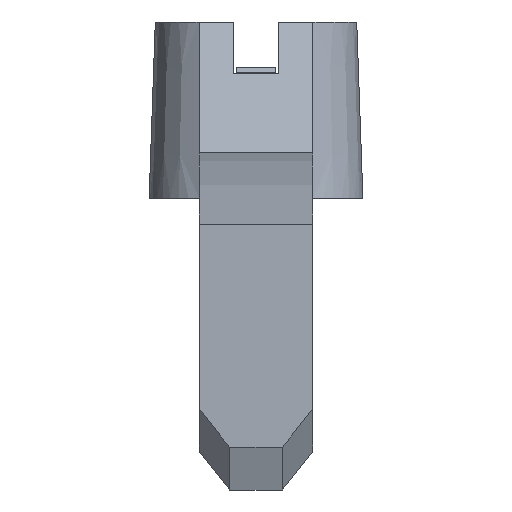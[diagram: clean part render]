
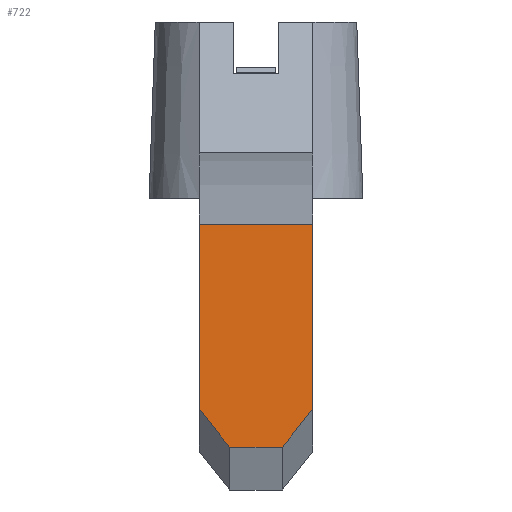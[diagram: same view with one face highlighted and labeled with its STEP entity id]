
A CAD part, front view. The second image highlights one B-rep face of the part: STEP entity #722.
In plain terms, the highlighted planar face has unit normal (0, -0.342, 0.94).
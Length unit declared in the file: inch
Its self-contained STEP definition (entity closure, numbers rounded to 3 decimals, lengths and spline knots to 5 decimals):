
#17 = EDGE_CURVE ( 'NONE', #277, #55, #848, .T. ) ;
#27 = CARTESIAN_POINT ( 'NONE',  ( 0.05, -3.0246, -0.02272 ) ) ;
#36 = VERTEX_POINT ( 'NONE', #826 ) ;
#50 = LINE ( 'NONE', #1306, #470 ) ;
#52 = CARTESIAN_POINT ( 'NONE',  ( -0.05, -3.0246, -0.02272 ) ) ;
#55 = VERTEX_POINT ( 'NONE', #619 ) ;
#69 = VERTEX_POINT ( 'NONE', #540 ) ;
#106 = ORIENTED_EDGE ( 'NONE', *, *, #718, .T. ) ;
#115 = VECTOR ( 'NONE', #315, 39.37008 ) ;
#118 = CARTESIAN_POINT ( 'NONE',  ( -0.05, -3.46971, -0.18473 ) ) ;
#140 = CARTESIAN_POINT ( 'NONE',  ( 0.05, -3.56368, -0.21893 ) ) ;
#143 = CARTESIAN_POINT ( 'NONE',  ( 0.05, -3.0246, -0.02272 ) ) ;
#198 = DIRECTION ( 'NONE',  ( 0.259, 0.908, 0.33 ) ) ;
#214 = ORIENTED_EDGE ( 'NONE', *, *, #1015, .T. ) ;
#259 = DIRECTION ( 'NONE',  ( 0., -0.94, -0.342 ) ) ;
#277 = VERTEX_POINT ( 'NONE', #662 ) ;
#299 = EDGE_CURVE ( 'NONE', #36, #277, #778, .T. ) ;
#315 = DIRECTION ( 'NONE',  ( 0.259, -0.908, -0.33 ) ) ;
#349 = PLANE ( 'NONE',  #1133 ) ;
#422 = ORIENTED_EDGE ( 'NONE', *, *, #17, .T. ) ;
#430 = EDGE_CURVE ( 'NONE', #36, #806, #50, .T. ) ;
#470 = VECTOR ( 'NONE', #592, 39.37008 ) ;
#491 = CARTESIAN_POINT ( 'NONE',  ( 0.05, -3.0246, -0.02272 ) ) ;
#540 = CARTESIAN_POINT ( 'NONE',  ( 0.02321, -3.56368, -0.21893 ) ) ;
#546 = VECTOR ( 'NONE', #259, 39.37008 ) ;
#592 = DIRECTION ( 'NONE',  ( 1., 0., 0. ) ) ;
#601 = VECTOR ( 'NONE', #959, 39.37008 ) ;
#619 = CARTESIAN_POINT ( 'NONE',  ( -0.02321, -3.56368, -0.21893 ) ) ;
#662 = CARTESIAN_POINT ( 'NONE',  ( -0.05, -3.46971, -0.18473 ) ) ;
#699 = VERTEX_POINT ( 'NONE', #1275 ) ;
#707 = LINE ( 'NONE', #143, #601 ) ;
#715 = CARTESIAN_POINT ( 'NONE',  ( 0.05, -3.46971, -0.18473 ) ) ;
#718 = EDGE_CURVE ( 'NONE', #55, #69, #924, .T. ) ;
#722 = ADVANCED_FACE ( 'NONE', ( #1144 ), #349, .F. ) ;
#778 = LINE ( 'NONE', #52, #546 ) ;
#806 = VERTEX_POINT ( 'NONE', #491 ) ;
#826 = CARTESIAN_POINT ( 'NONE',  ( -0.05, -3.0246, -0.02272 ) ) ;
#848 = LINE ( 'NONE', #118, #115 ) ;
#852 = DIRECTION ( 'NONE',  ( 0., 0.342, -0.94 ) ) ;
#889 = LINE ( 'NONE', #715, #1075 ) ;
#904 = VECTOR ( 'NONE', #1271, 39.37008 ) ;
#914 = ORIENTED_EDGE ( 'NONE', *, *, #430, .F. ) ;
#919 = EDGE_LOOP ( 'NONE', ( #106, #214, #994, #914, #998, #422 ) ) ;
#924 = LINE ( 'NONE', #140, #904 ) ;
#959 = DIRECTION ( 'NONE',  ( 0., -0.94, -0.342 ) ) ;
#994 = ORIENTED_EDGE ( 'NONE', *, *, #1260, .F. ) ;
#998 = ORIENTED_EDGE ( 'NONE', *, *, #299, .T. ) ;
#1015 = EDGE_CURVE ( 'NONE', #69, #699, #889, .T. ) ;
#1063 = DIRECTION ( 'NONE',  ( 0., 0.94, 0.342 ) ) ;
#1075 = VECTOR ( 'NONE', #198, 39.37008 ) ;
#1133 = AXIS2_PLACEMENT_3D ( 'NONE', #27, #852, #1063 ) ;
#1144 = FACE_OUTER_BOUND ( 'NONE', #919, .T. ) ;
#1260 = EDGE_CURVE ( 'NONE', #806, #699, #707, .T. ) ;
#1271 = DIRECTION ( 'NONE',  ( 1., 0., 0. ) ) ;
#1275 = CARTESIAN_POINT ( 'NONE',  ( 0.05, -3.46971, -0.18473 ) ) ;
#1306 = CARTESIAN_POINT ( 'NONE',  ( 0.05, -3.0246, -0.02272 ) ) ;
